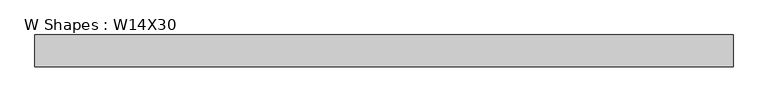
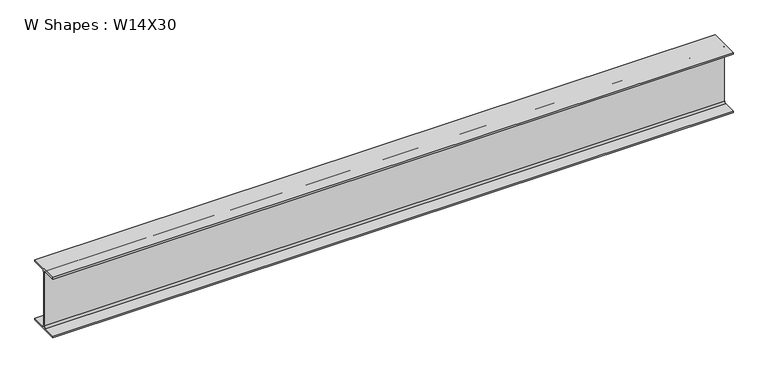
"""IFC4 building model written with IfcOpenShell, lengths in millimetres: beam geometry, W Shapes : W14X30."""

from ifc_helpers import new_model, si_unit, point, frame, frame_2d, origin, place, context, project, spatial, polyline, circle_curve, trimmed, segment, composite_curve, outline, extrude, source, transform, mapped, element, save


def w_shapes_w14x30_3b95b5f1(model_context):
    return source(origin(), model_context, "Body", "SweptSolid", [
        extrude(outline(composite_curve([segment(polyline([(85.471, -165.481), (85.471, -175.26), (-85.471, -175.26), (-85.471, -165.481), (-13.589, -165.481)]), True, "CONTINUOUS"), segment(trimmed(circle_curve(frame_2d((-13.589, -155.321)), 10.16), [point((-13.589, -165.481))], [point((-3.429, -155.321))], True, "CARTESIAN"), True, "CONTINUOUS"), segment(polyline([(-3.429, -155.321), (-3.429, 155.321)]), True, "CONTINUOUS"), segment(trimmed(circle_curve(frame_2d((-13.589, 155.321)), 10.16), [point((-3.429, 155.321))], [point((-13.589, 165.481))], True, "CARTESIAN"), True, "CONTINUOUS"), segment(polyline([(-13.589, 165.481), (-85.471, 165.481), (-85.471, 175.26), (85.471, 175.26), (85.471, 165.481), (13.589, 165.481)]), True, "CONTINUOUS"), segment(trimmed(circle_curve(frame_2d((13.589, 155.321)), 10.16), [point((13.589, 165.481))], [point((3.429, 155.321))], True, "CARTESIAN"), True, "CONTINUOUS"), segment(polyline([(3.429, 155.321), (3.429, -155.321)]), True, "CONTINUOUS"), segment(trimmed(circle_curve(frame_2d((13.589, -155.321)), 10.16), [point((3.429, -155.321))], [point((13.589, -165.481))], True, "CARTESIAN"), True, "CONTINUOUS"), segment(polyline([(13.589, -165.481), (85.471, -165.481)]), True, "CONTINUOUS")], self_intersect=False)), frame((-1863.3023799, 0.0, 0.0), z_axis=(1.0, 0.0, 0.0), x_axis=(0.0, 1.0, 0.0)), (0.0, 0.0, 1.0), 3742.3605529),
    ])


if __name__ == "__main__":
    model = new_model("IFC4")
    model_context = context("Model", 3, world=origin())
    ifc_project = project(units=[si_unit("LENGTHUNIT", "METRE", prefix="MILLI")], contexts=[model_context])
    site = spatial("IfcSite", under=ifc_project)
    building = spatial("IfcBuilding", under=site)
    placement = place(None, origin())
    w_shapes_w14x30_shape = w_shapes_w14x30_3b95b5f1(model_context)
    element("IfcBeam", 1, ObjectType="W Shapes : W14X30", at=placement, inside=building, context=model_context, shape_type="MappedRepresentation", body=[
        mapped(w_shapes_w14x30_shape, transform((0.0, 0.0, 0.0), x_axis=(1.0, 0.0, 0.0), y_axis=(0.0, 1.0, 0.0), z_axis=(0.0, 0.0, 1.0))),
    ])
    save(model, "model.ifc")
